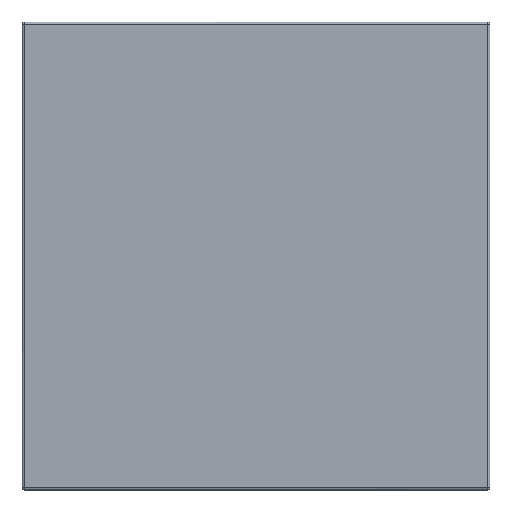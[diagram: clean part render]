
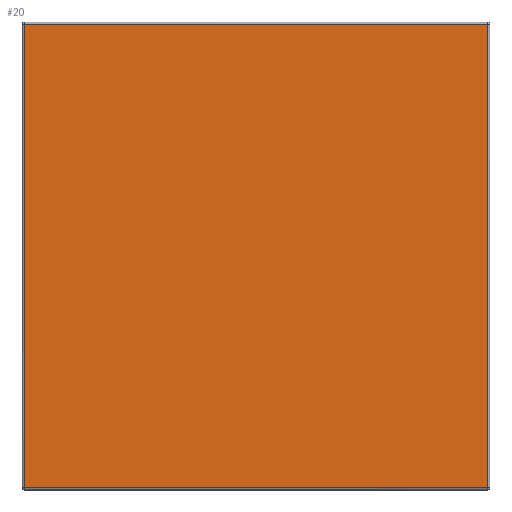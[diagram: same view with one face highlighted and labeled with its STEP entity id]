
A CAD part, top view. The second image highlights one B-rep face of the part: STEP entity #20.
In plain terms, the highlighted planar face has unit normal (0, 0, 1).
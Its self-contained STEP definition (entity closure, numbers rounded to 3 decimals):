
#20=ADVANCED_FACE('',(#46),#334,.T.);
#46=FACE_OUTER_BOUND('',#72,.T.);
#72=EDGE_LOOP('',(#113,#114,#115,#116));
#113=ORIENTED_EDGE('',*,*,#209,.T.);
#114=ORIENTED_EDGE('',*,*,#210,.T.);
#115=ORIENTED_EDGE('',*,*,#211,.T.);
#116=ORIENTED_EDGE('',*,*,#212,.T.);
#209=EDGE_CURVE('',#305,#306,#281,.T.);
#210=EDGE_CURVE('',#306,#307,#282,.T.);
#211=EDGE_CURVE('',#307,#308,#283,.T.);
#212=EDGE_CURVE('',#308,#305,#284,.T.);
#281=B_SPLINE_CURVE_WITH_KNOTS('',1,(#645,#646),.UNSPECIFIED.,.F.,.F.,(2,
2),(0.,594.),.UNSPECIFIED.);
#282=B_SPLINE_CURVE_WITH_KNOTS('',1,(#647,#648),.UNSPECIFIED.,.F.,.F.,(2,
2),(0.,594.),.UNSPECIFIED.);
#283=B_SPLINE_CURVE_WITH_KNOTS('',1,(#649,#650),.UNSPECIFIED.,.F.,.F.,(2,
2),(0.,594.),.UNSPECIFIED.);
#284=B_SPLINE_CURVE_WITH_KNOTS('',1,(#651,#652),.UNSPECIFIED.,.F.,.F.,(2,
2),(0.,594.),.UNSPECIFIED.);
#305=VERTEX_POINT('',#601);
#306=VERTEX_POINT('',#602);
#307=VERTEX_POINT('',#603);
#308=VERTEX_POINT('',#604);
#334=PLANE('',#360);
#360=AXIS2_PLACEMENT_3D('',#378,#369,$);
#369=DIRECTION('',(0.,0.,1.));
#378=CARTESIAN_POINT('',(-356.412,-356.412,27.));
#601=CARTESIAN_POINT('',(297.,-297.,27.));
#602=CARTESIAN_POINT('',(297.,297.,27.));
#603=CARTESIAN_POINT('',(-297.,297.,27.));
#604=CARTESIAN_POINT('',(-297.,-297.,27.));
#645=CARTESIAN_POINT('',(297.,-297.,27.));
#646=CARTESIAN_POINT('',(297.,297.,27.));
#647=CARTESIAN_POINT('',(297.,297.,27.));
#648=CARTESIAN_POINT('',(-297.,297.,27.));
#649=CARTESIAN_POINT('',(-297.,297.,27.));
#650=CARTESIAN_POINT('',(-297.,-297.,27.));
#651=CARTESIAN_POINT('',(-297.,-297.,27.));
#652=CARTESIAN_POINT('',(297.,-297.,27.));
